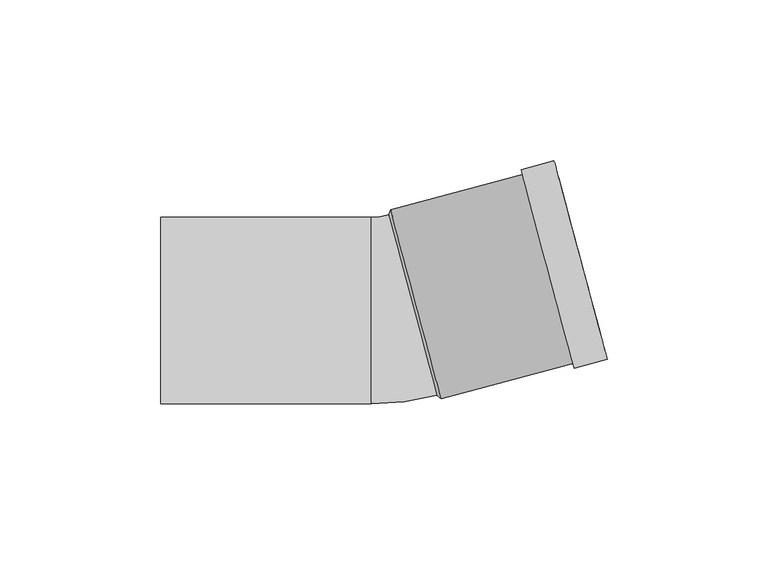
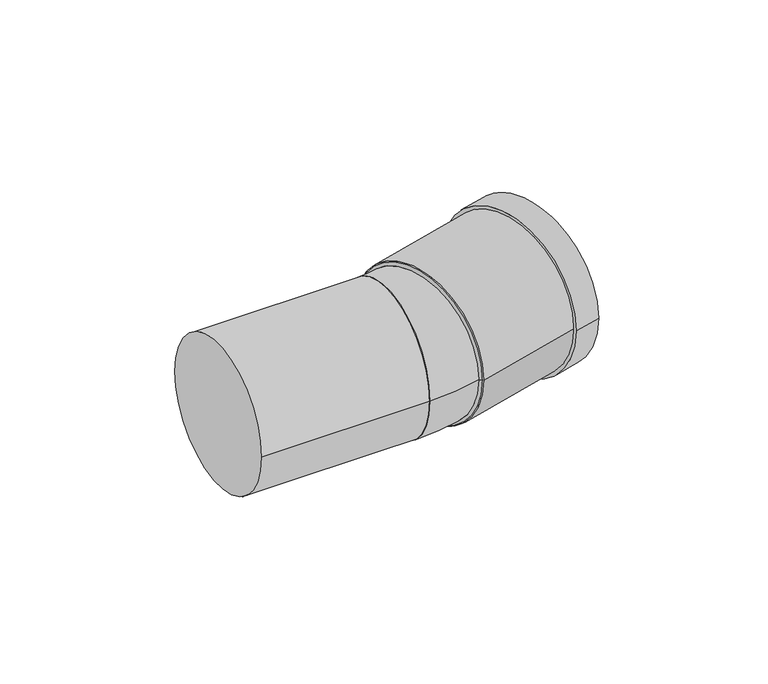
"""IFC4 building model written with IfcOpenShell, lengths in millimetres: pipe fitting geometry, Superdrain SKB Bend : Superdrain SKB Bend."""

from ifc_helpers import new_model, si_unit, point, frame, origin, origin_2d, place, context, project, spatial, polyline, circle_curve, ellipse_curve, trimmed, segment, composite_curve, outline, extrude, source, transform, mapped, element, save
from ifc_brep_helpers import plane_surface, revolved_surface, advanced_brep


def pipe_fitting_e8b2c53d(model_context):
    return source(origin(), model_context, "Body", "SolidModel", [
        advanced_brep(
        [(13.8808628, -26.3036433, 0.0), (-1.1306419, 29.7200547, 0.0), (-6.6, -29.0, 0.0), (-6.6, 29.0, 0.0)],
        [
            (0, 1, circle_curve(frame((6.3751105, 1.7082057, 0.0), z_axis=(0.965925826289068, 0.2588190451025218, 0.0), x_axis=(-0.2588190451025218, 0.965925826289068, 0.0)), 29.0)),
            (1, 0, circle_curve(frame((6.3751105, 1.7082057, 0.0), z_axis=(0.965925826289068, 0.258819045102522, 0.0), x_axis=(-0.258819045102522, 0.965925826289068, 0.0)), 29.0)),
            (2, 3, circle_curve(frame((-6.6, 0.0, 0.0), z_axis=(-1.0, 0.0, 0.0), x_axis=(0.0, 1.0, 0.0)), 29.0)),
            (3, 2, circle_curve(frame((-6.6, 0.0, 0.0), z_axis=(-1.0, 0.0, 0.0), x_axis=(0.0, 1.0, 0.0)), 29.0)),
            (3, 1, circle_curve(frame((-6.6, 50.1319771, 0.0), z_axis=(0.0, 0.0, 1.0), x_axis=(1.0, 0.0, 0.0)), 21.1319771)),
            (0, 2, circle_curve(frame((-6.6, 50.1319771, 0.0), z_axis=(0.0, 0.0, -1.0), x_axis=(1.0, 0.0, 0.0)), 79.1319771)),
        ],
        [
            plane_surface(frame((6.3751105, 1.7082057, 0.0), z_axis=(0.965925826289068, 0.25881904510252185, 0.0), x_axis=(0.0, 0.0, -1.0))),
            plane_surface(frame((-6.6, 0.0, 0.0), z_axis=(-1.0, 0.0, 0.0), x_axis=(0.0, 0.0, -1.0))),
            revolved_surface(trimmed(ellipse_curve(frame((43.5319771, 50.1319771, 0.0), z_axis=(0.0, -1.0, 0.0), x_axis=(-1.0, 0.0, 0.0)), 29.0, 29.0), [point((14.5319771, 50.1319771, 0.0))], [point((72.5319771, 50.1319771, 0.0))], True, "CARTESIAN"), (-6.6, 50.1319771, 0.0), (0.0, 0.0, 1.0)),
            revolved_surface(trimmed(ellipse_curve(frame((43.5319771, 50.1319771, 0.0), z_axis=(0.0, -1.0, 0.0), x_axis=(-1.0, 0.0, 0.0)), 29.0, 29.0), [point((72.5319771, 50.1319771, 0.0))], [point((14.5319771, 50.1319771, 0.0))], True, "CARTESIAN"), (-6.6, 50.1319771, 0.0), (0.0, 0.0, 1.0)),
        ],
        [
            (0, [[1, 2]]),
            (1, [[3, 4]]),
            (2, [[-4, 5, -1, 6]]),
            (3, [[-3, -6, -2, -5]]),
        ],
    ),
        extrude(outline(composite_curve([segment(trimmed(circle_curve(origin_2d(), 30.45), [point((0.0, 30.45))], [point((0.0, -30.4500001))], False, "CARTESIAN"), True, "CONTINUOUS"), segment(trimmed(circle_curve(origin_2d(), 30.45), [point((0.0, -30.4500001))], [point((0.0, 30.45))], False, "CARTESIAN"), True, "CONTINUOUS")], self_intersect=False), holes=[composite_curve([segment(trimmed(circle_curve(origin_2d(), 29.0), [point((0.0, 28.9999999))], [point((0.0, -29.0))], True, "CARTESIAN"), True, "CONTINUOUS"), segment(trimmed(circle_curve(origin_2d(), 29.0), [point((0.0, -29.0))], [point((0.0, 28.9999999))], True, "CARTESIAN"), True, "CONTINUOUS")], self_intersect=False)]), frame((7.3410363, 1.9670247, 0.0), z_axis=(0.9659258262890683, 0.2588190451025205, 0.0), x_axis=(0.0, 0.0, 1.0)), (0.0, 0.0, 1.0), 53.0),
        extrude(outline(composite_curve([segment(trimmed(circle_curve(origin_2d(), 31.9725), [point((0.0, -31.9724999))], [point((0.0, 31.9725))], False, "CARTESIAN"), True, "CONTINUOUS"), segment(trimmed(circle_curve(origin_2d(), 31.9725), [point((0.0, 31.9725))], [point((0.0, -31.9724999))], False, "CARTESIAN"), True, "CONTINUOUS")], self_intersect=False), holes=[composite_curve([segment(trimmed(circle_curve(origin_2d(), 29.0), [point((0.0, -28.9999999))], [point((0.0, 29.0))], True, "CARTESIAN"), True, "CONTINUOUS"), segment(trimmed(circle_curve(origin_2d(), 29.0), [point((0.0, 29.0))], [point((0.0, -28.9999999))], True, "CARTESIAN"), True, "CONTINUOUS")], self_intersect=False)]), frame((48.2962913, 12.9409523, 0.0), z_axis=(0.9659258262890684, 0.25881904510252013, 0.0), x_axis=(0.0, 0.0, 1.0)), (0.0, 0.0, 1.0), 10.6),
        advanced_brep(
        [(15.2220762, -27.4454167, 0.0), (-0.5400036, 31.3794662, 0.0), (13.8808628, -26.3036433, 0.0), (-1.1306419, 29.7200547, 0.0)],
        [
            (0, 1, circle_curve(frame((7.3410363, 1.9670247, 0.0), z_axis=(0.9659258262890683, 0.2588190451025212, 0.0), x_axis=(0.2588190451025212, -0.9659258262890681, 0.0)), 30.45)),
            (1, 0, circle_curve(frame((7.3410363, 1.9670247, 0.0), z_axis=(0.9659258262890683, 0.2588190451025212, 0.0), x_axis=(-0.258819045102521, 0.9659258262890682, 0.0)), 30.45)),
            (2, 3, circle_curve(frame((6.3751105, 1.7082057, 0.0), z_axis=(-0.9659258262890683, -0.2588190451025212, 0.0), x_axis=(-0.258819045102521, 0.9659258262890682, 0.0)), 29.0)),
            (3, 2, circle_curve(frame((6.3751105, 1.7082057, 0.0), z_axis=(-0.9659258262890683, -0.2588190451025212, 0.0), x_axis=(0.2588190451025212, -0.9659258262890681, 0.0)), 29.0)),
            (3, 1),
            (0, 2),
        ],
        [
            plane_surface(frame((7.3410363, 1.9670247, 0.0), z_axis=(0.9659258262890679, 0.25881904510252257, 0.0), x_axis=(0.0, 0.0, -1.0))),
            plane_surface(frame((6.3751105, 1.7082057, 0.0), z_axis=(-0.9659258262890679, -0.25881904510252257, 0.0), x_axis=(0.0, 0.0, -1.0))),
            revolved_surface(polyline([(-1.1306418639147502, 29.720054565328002, 0.0), (-0.5400036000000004, 31.3794662, 0.0)]), (-12.9434061, -3.4681752, 0.0), (0.9659258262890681, 0.25881904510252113, 0.0)),
            revolved_surface(polyline([(13.880862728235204, -26.303643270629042, 0.0), (15.222076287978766, -27.445416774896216, 0.0)]), (-12.9434061, -3.4681752, 0.0), (0.9659258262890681, 0.25881904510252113, 0.0)),
        ],
        [
            (0, [[1, 2]]),
            (1, [[3, 4]]),
            (2, [[-4, 5, -1, 6]]),
            (3, [[-3, -6, -2, -5]]),
        ],
    ),
        extrude(outline(composite_curve([segment(trimmed(circle_curve(origin_2d(), 29.0), [point((-29.0, 0.0))], [point((29.0, 0.0))], False, "CARTESIAN"), True, "CONTINUOUS"), segment(trimmed(circle_curve(origin_2d(), 29.0), [point((29.0, 0.0))], [point((-29.0, 0.0))], False, "CARTESIAN"), True, "CONTINUOUS")], self_intersect=False)), frame((-72.0, 0.0, 0.0), z_axis=(1.0, 0.0, 0.0), x_axis=(0.0, 1.0, 0.0)), (0.0, 0.0, 1.0), 65.4),
    ])


if __name__ == "__main__":
    model = new_model("IFC4")
    model_context = context("Model", 3, world=origin())
    ifc_project = project(units=[si_unit("LENGTHUNIT", "METRE", prefix="MILLI")], contexts=[model_context])
    site = spatial("IfcSite", under=ifc_project)
    building = spatial("IfcBuilding", under=site)
    placement = place(None, origin())
    pipe_fitting_shape = pipe_fitting_e8b2c53d(model_context)
    element("IfcPipeFitting", 1, ObjectType="Superdrain SKB Bend : Superdrain SKB Bend", at=placement, inside=building, context=model_context, shape_type="MappedRepresentation", body=[
        mapped(pipe_fitting_shape, transform((0.0, 0.0, 0.0), x_axis=(1.0, 0.0, 0.0), y_axis=(0.0, 1.0, 0.0), z_axis=(0.0, 0.0, 1.0))),
    ])
    save(model, "model.ifc")
